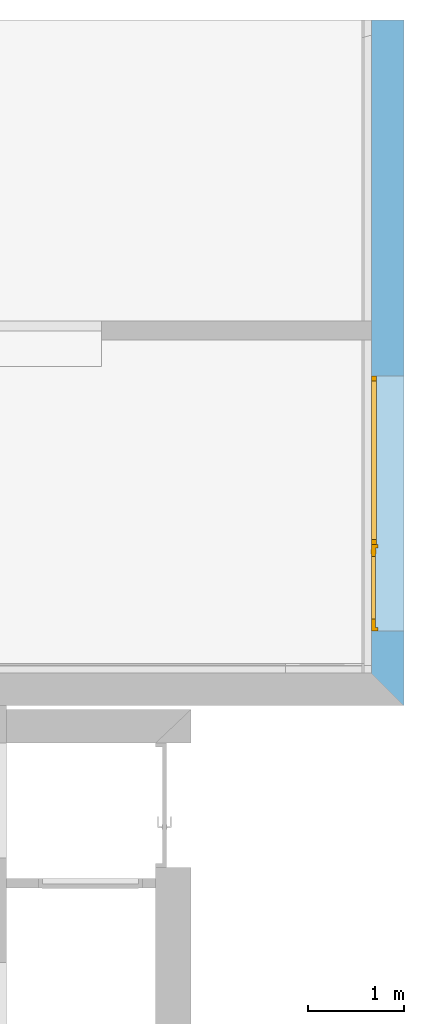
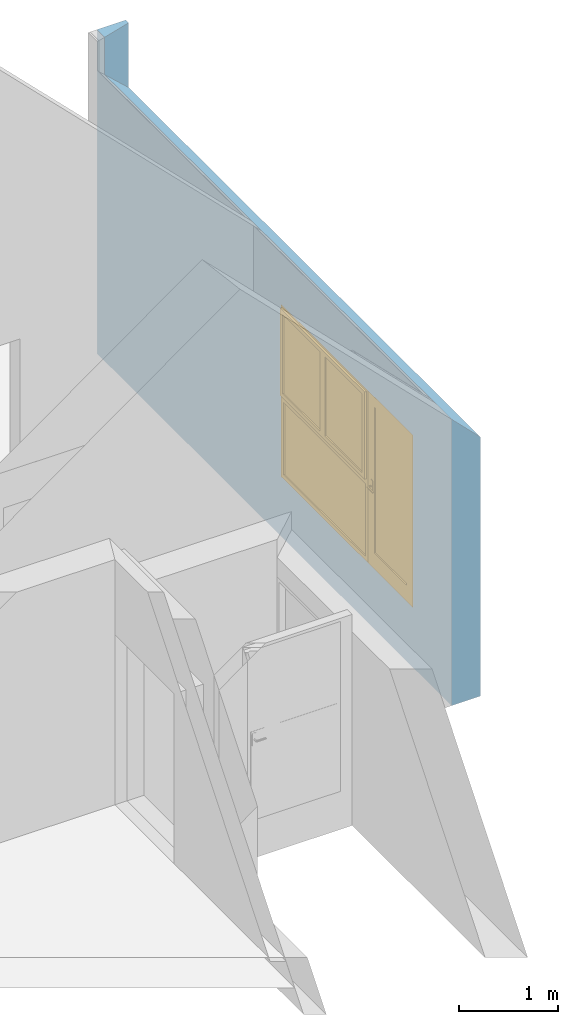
# One storey, part 26 of 34: 1 door, 1 window, 2 openings, plus 1 element that does not belong to this part.
"""IFC2X3 building model written with IfcOpenShell, lengths in metres."""

from ifc_helpers import new_model, entity, si_unit, converted_unit, derived_unit, money_unit, direction, frame, origin_with_axes, origin_2d_with_axis, place, context, subcontext, project, spatial, polyline, rectangle, outline, extrude, boolean, open_shell, faceted_brep, surface_model, material, type_object, element, fill, save


model = new_model("IFC2X3")

# Units and contexts
model_context = context("Model", 3, precision=1e-05, world=origin_with_axes(), true_north=direction((0.0, 1.0)))
body_context = subcontext(model_context, "Body", "Model", "MODEL_VIEW")
ifc_project = project(units=[si_unit("LENGTHUNIT", "METRE"), si_unit("AREAUNIT", "SQUARE_METRE"), si_unit("VOLUMEUNIT", "CUBIC_METRE"), converted_unit("PLANEANGLEUNIT", "DEGREE", entity("IfcPlaneAngleMeasure", 0.0174532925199), si_unit("PLANEANGLEUNIT", "RADIAN"), dimensions=[0, 0, 0, 0, 0, 0, 0]), money_unit("CHF"), converted_unit("TIMEUNIT", "Year", entity("IfcTimeMeasure", 31556926.0), si_unit("TIMEUNIT", "SECOND"), dimensions=[0, 0, 1, 0, 0, 0, 0]), si_unit("MASSUNIT", "GRAM", prefix="KILO"), si_unit("THERMODYNAMICTEMPERATUREUNIT", "DEGREE_CELSIUS"), si_unit("LUMINOUSINTENSITYUNIT", "LUMEN"), si_unit("ENERGYUNIT", "JOULE", prefix="MEGA"), derived_unit("THERMALCONDUCTANCEUNIT", [(si_unit("POWERUNIT", "WATT"), 1), (si_unit("LENGTHUNIT", "METRE"), -1), (si_unit("THERMODYNAMICTEMPERATUREUNIT", "KELVIN"), -1)]), derived_unit("SPECIFICHEATCAPACITYUNIT", [(si_unit("ENERGYUNIT", "JOULE"), 1), (si_unit("MASSUNIT", "GRAM", prefix="KILO"), -1), (si_unit("THERMODYNAMICTEMPERATUREUNIT", "KELVIN"), -1)]), derived_unit("MASSDENSITYUNIT", [(si_unit("MASSUNIT", "GRAM", prefix="KILO"), 1), (si_unit("VOLUMEUNIT", "CUBIC_METRE"), -1)])], contexts=[model_context])

# Site, building, storey
site_placement = place(None, origin_with_axes())
site = spatial("IfcSite", under=ifc_project, at=site_placement, Name="Site", CompositionType="ELEMENT")
building_placement = place(site_placement, origin_with_axes())
building = spatial("IfcBuilding", under=site, at=building_placement, Name="Bâtiment", CompositionType="ELEMENT")
storey_placement = place(building_placement, origin_with_axes())
storey = spatial("IfcBuildingStorey", under=building, at=storey_placement, Name="RDC", CompositionType="ELEMENT", Elevation=-5.32907e-15)

# Wall, openings, window, door
ifc_material = material(Name="Diagonales 1167258944")
wall_type = type_object("IfcWallType", Name="Diagonales 1167258944 340", PredefinedType="NOTDEFINED")
wall_placement = place(storey_placement, frame((1699.91729001, 190.26004191, 0.0), z_axis=(0.0, 0.0, 1.0), x_axis=(0.0, 1.0, 0.0)))
wall = element("IfcWall", 1, at=wall_placement, inside=storey, type_object=wall_type, material=ifc_material, Name="Mur-005", context=body_context, shape_type="CSG", body=[
    boolean("DIFFERENCE", extrude(outline(polyline([(0.0, 0.0), (7.18, 0.0), (7.18, 0.34), (0.0, 0.34), (0.0, 0.0)])), origin_with_axes(), (0.0, 0.0, 1.0), 4.0), faceted_brep([(0.0, 0.0, 3.19999996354), (7.12164777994, 0.0, 3.19999996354), (7.12164777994, 0.0, 4.0), (0.0, 0.0, 4.0), (0.0, 0.34, 3.53999996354), (7.02244903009, 0.34, 3.53999996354), (7.02244903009, 0.34, 4.0), (0.0, 0.34, 4.0)], [[[0, 1, 2, 3]], [[1, 0, 4, 5]], [[6, 2, 1, 5]], [[2, 6, 7, 3]], [[4, 0, 3, 7]], [[5, 4, 7, 6]]])),
])
opening_1_placement = place(wall_placement, frame((2.57, 0.0, 0.74), z_axis=(0.0, 0.0, 1.0), x_axis=(1.0, 0.0, 0.0)))
opening_1 = element("IfcOpeningElement", 2, at=opening_1_placement, cuts=wall, Name="Fen-009", context=body_context, shape_type="SweptSolid", body=[
    extrude(rectangle(XDim=1.76, YDim=2.13, at=origin_2d_with_axis()), frame((0.0, -0.34, 1.065), z_axis=(0.0, -1.0, 0.0), x_axis=(-1.0, 0.0, 0.0)), (0.0, 0.0, -1.0), 1.02),
])
opening_2_placement = place(wall_placement, frame((1.235, 0.0, 0.74), z_axis=(0.0, 0.0, 1.0), x_axis=(1.0, 0.0, 0.0)))
opening_2 = element("IfcOpeningElement", 3, at=opening_2_placement, cuts=wall, Name="Por-005", context=body_context, shape_type="SweptSolid", body=[
    extrude(rectangle(XDim=0.91, YDim=2.13, at=origin_2d_with_axis()), frame((0.0, -0.34, 1.065), z_axis=(0.0, -1.0, 0.0), x_axis=(-1.0, 0.0, 0.0)), (0.0, 0.0, -1.0), 1.02),
])
window_style = type_object("IfcWindowStyle", Name="Fenêtre châssis double variable 25", ConstructionType="NOTDEFINED", OperationType="TRIPLE_PANEL_BOTTOM", ParameterTakesPrecedence=False, Sizeable=False)
window_placement = place(opening_1_placement, frame((-0.88, 0.0, 0.0), z_axis=(0.0, 0.0, 1.0), x_axis=(1.0, 0.0, 0.0)))
window = element("IfcWindow", 4, at=window_placement, inside=storey, type_object=window_style, Name="Fen-009", OverallHeight=2.13, OverallWidth=1.76, context=body_context, shape_type="SurfaceModel", body=[
    faceted_brep([(1.735, 0.34, 2.08), (1.735, 0.315, 2.08), (1.71, 0.315, 2.08), (1.71, 0.29, 2.08), (1.76, 0.29, 2.08), (1.76, 0.34, 2.08), (1.735, 0.34, 1.025), (1.735, 0.315, 1.025), (1.71, 0.315, 1.05), (1.71, 0.315, 1.025), (1.71, 0.29, 1.05), (1.71, 0.29, 0.95), (1.71, 0.29, 0.05), (1.76, 0.29, 0.05), (1.76, 0.34, 0.05), (1.71, 0.34, 0.05), (1.71, 0.34, 0.95), (1.71, 0.34, 1.025)], [[[0, 1, 2, 3, 4, 5]], [[1, 0, 6, 7]], [[8, 2, 1, 7, 9]], [[2, 8, 10, 3]], [[10, 11, 12, 13, 4, 3]], [[5, 4, 13, 14]], [[6, 0, 5, 14, 15, 16, 17]], [[6, 17, 9, 7]], [[9, 17, 16, 11, 10, 8]], [[15, 12, 11, 16]], [[14, 13, 12, 15]]]),
    faceted_brep([(0.05, 0.315, 2.08), (0.025, 0.315, 2.08), (0.025, 0.34, 2.08), (0.0, 0.34, 2.08), (0.0, 0.29, 2.08), (0.05, 0.29, 2.08), (0.05, 0.315, 1.05), (0.05, 0.315, 1.025), (0.025, 0.315, 1.025), (0.025, 0.34, 1.025), (0.05, 0.34, 1.025), (0.05, 0.34, 0.95), (0.05, 0.34, 0.05), (0.0, 0.34, 0.05), (0.0, 0.29, 0.05), (0.05, 0.29, 0.05), (0.05, 0.29, 0.95), (0.05, 0.29, 1.05)], [[[0, 1, 2, 3, 4, 5]], [[1, 0, 6, 7, 8]], [[9, 2, 1, 8]], [[9, 10, 11, 12, 13, 3, 2]], [[13, 14, 4, 3]], [[14, 15, 16, 17, 5, 4]], [[6, 0, 5, 17]], [[7, 6, 17, 16, 11, 10]], [[10, 9, 8, 7]], [[11, 16, 15, 12]], [[12, 15, 14, 13]]]),
    faceted_brep([(1.71, 0.315, 1.05), (0.05, 0.315, 1.05), (0.05, 0.29, 1.05), (1.71, 0.29, 1.05), (0.05, 0.315, 1.025), (1.71, 0.315, 1.025), (0.05, 0.34, 1.025), (0.05, 0.34, 0.95), (0.05, 0.29, 0.95), (1.71, 0.29, 0.95), (1.71, 0.34, 0.95), (1.71, 0.34, 1.025)], [[[0, 1, 2, 3]], [[4, 1, 0, 5]], [[4, 6, 7, 8, 2, 1]], [[8, 9, 3, 2]], [[5, 0, 3, 9, 10, 11]], [[11, 6, 4, 5]], [[6, 11, 10, 7]], [[10, 9, 8, 7]]]),
    faceted_brep([(1.735, 0.34, 2.08), (1.735, 0.34, 2.105), (0.025, 0.34, 2.105), (0.025, 0.34, 2.08), (0.0, 0.34, 2.08), (0.0, 0.34, 2.13), (1.76, 0.34, 2.13), (1.76, 0.34, 2.08), (1.735, 0.315, 2.08), (1.735, 0.315, 2.105), (0.025, 0.315, 2.105), (0.025, 0.315, 2.08), (0.05, 0.315, 2.08), (0.05, 0.29, 2.08), (0.0, 0.29, 2.08), (0.0, 0.29, 2.13), (1.76, 0.29, 2.13), (1.76, 0.29, 2.08), (1.71, 0.29, 2.08), (1.71, 0.315, 2.08)], [[[0, 1, 2, 3, 4, 5, 6, 7]], [[1, 0, 8, 9]], [[2, 1, 9, 10]], [[3, 2, 10, 11]], [[11, 12, 13, 14, 4, 3]], [[4, 14, 15, 5]], [[5, 15, 16, 6]], [[6, 16, 17, 7]], [[8, 0, 7, 17, 18, 19]], [[12, 11, 10, 9, 8, 19]], [[12, 19, 18, 13]], [[14, 13, 18, 17, 16, 15]]]),
    faceted_brep([(1.71, 0.29, 0.05), (1.76, 0.29, 0.05), (1.76, 0.34, 0.05), (1.71, 0.34, 0.05), (0.05, 0.29, 0.05), (0.0, 0.29, 0.05), (0.0, 0.29, 0.0), (1.76, 0.29, 0.0), (1.76, 0.34, 0.0), (0.0, 0.34, 0.0), (0.0, 0.34, 0.05), (0.05, 0.34, 0.05)], [[[0, 1, 2, 3]], [[0, 4, 5, 6, 7, 1]], [[1, 7, 8, 2]], [[3, 2, 8, 9, 10, 11]], [[4, 0, 3, 11]], [[5, 4, 11, 10]], [[6, 5, 10, 9]], [[7, 6, 9, 8]]]),
    faceted_brep([(1.685, 0.315, 2.055), (1.735, 0.315, 2.055), (1.735, 0.365, 2.055), (1.685, 0.365, 2.055), (1.685, 0.315, 1.075), (1.735, 0.315, 1.075), (1.735, 0.365, 1.075), (1.685, 0.365, 1.075)], [[[0, 1, 2, 3]], [[0, 4, 5, 1]], [[1, 5, 6, 2]], [[3, 2, 6, 7]], [[4, 0, 3, 7]], [[5, 4, 7, 6]]]),
    faceted_brep([(0.93, 0.315, 1.075), (0.88, 0.315, 1.075), (0.88, 0.365, 1.075), (0.93, 0.365, 1.075), (0.93, 0.315, 2.055), (0.88, 0.315, 2.055), (0.88, 0.365, 2.055), (0.93, 0.365, 2.055)], [[[0, 1, 2, 3]], [[0, 4, 5, 1]], [[1, 5, 6, 2]], [[3, 2, 6, 7]], [[4, 0, 3, 7]], [[5, 4, 7, 6]]]),
    faceted_brep([(0.88, 0.315, 1.025), (0.88, 0.315, 1.075), (0.88, 0.365, 1.075), (0.88, 0.365, 1.025), (1.735, 0.315, 1.025), (1.735, 0.315, 1.075), (1.685, 0.315, 1.075), (0.93, 0.315, 1.075), (0.93, 0.365, 1.075), (1.685, 0.365, 1.075), (1.735, 0.365, 1.075), (1.735, 0.365, 1.025)], [[[0, 1, 2, 3]], [[0, 4, 5, 6, 7, 1]], [[1, 7, 8, 2]], [[3, 2, 8, 9, 10, 11]], [[4, 0, 3, 11]], [[5, 4, 11, 10]], [[6, 5, 10, 9]], [[7, 6, 9, 8]]]),
    faceted_brep([(1.735, 0.315, 2.105), (1.735, 0.315, 2.055), (1.735, 0.365, 2.055), (1.735, 0.365, 2.105), (0.88, 0.315, 2.105), (0.88, 0.315, 2.055), (0.93, 0.315, 2.055), (1.685, 0.315, 2.055), (1.685, 0.365, 2.055), (0.93, 0.365, 2.055), (0.88, 0.365, 2.055), (0.88, 0.365, 2.105)], [[[0, 1, 2, 3]], [[0, 4, 5, 6, 7, 1]], [[1, 7, 8, 2]], [[3, 2, 8, 9, 10, 11]], [[4, 0, 3, 11]], [[5, 4, 11, 10]], [[6, 5, 10, 9]], [[7, 6, 9, 8]]]),
    surface_model("IfcShellBasedSurfaceModel", [(1.685, 0.33, 1.075), (1.685, 0.33, 2.055), (0.93, 0.33, 2.055), (0.93, 0.33, 1.075)], [open_shell([[[0, 1, 2, 3]]])]),
    surface_model("IfcShellBasedSurfaceModel", [(1.685, 0.35, 1.075), (0.93, 0.35, 1.075), (0.93, 0.35, 2.055), (1.685, 0.35, 2.055)], [open_shell([[[0, 1, 2, 3]]])]),
    faceted_brep([(0.83, 0.315, 2.055), (0.88, 0.315, 2.055), (0.88, 0.365, 2.055), (0.83, 0.365, 2.055), (0.83, 0.315, 1.075), (0.88, 0.315, 1.075), (0.88, 0.365, 1.075), (0.83, 0.365, 1.075)], [[[0, 1, 2, 3]], [[0, 4, 5, 1]], [[1, 5, 6, 2]], [[3, 2, 6, 7]], [[4, 0, 3, 7]], [[5, 4, 7, 6]]]),
    faceted_brep([(0.075, 0.315, 1.075), (0.025, 0.315, 1.075), (0.025, 0.365, 1.075), (0.075, 0.365, 1.075), (0.075, 0.315, 2.055), (0.025, 0.315, 2.055), (0.025, 0.365, 2.055), (0.075, 0.365, 2.055)], [[[0, 1, 2, 3]], [[0, 4, 5, 1]], [[1, 5, 6, 2]], [[3, 2, 6, 7]], [[4, 0, 3, 7]], [[5, 4, 7, 6]]]),
    faceted_brep([(0.025, 0.315, 1.025), (0.025, 0.315, 1.075), (0.025, 0.365, 1.075), (0.025, 0.365, 1.025), (0.88, 0.315, 1.025), (0.88, 0.315, 1.075), (0.83, 0.315, 1.075), (0.075, 0.315, 1.075), (0.075, 0.365, 1.075), (0.83, 0.365, 1.075), (0.88, 0.365, 1.075), (0.88, 0.365, 1.025)], [[[0, 1, 2, 3]], [[0, 4, 5, 6, 7, 1]], [[1, 7, 8, 2]], [[3, 2, 8, 9, 10, 11]], [[4, 0, 3, 11]], [[5, 4, 11, 10]], [[6, 5, 10, 9]], [[7, 6, 9, 8]]]),
    faceted_brep([(0.88, 0.315, 2.105), (0.88, 0.315, 2.055), (0.88, 0.365, 2.055), (0.88, 0.365, 2.105), (0.025, 0.315, 2.105), (0.025, 0.315, 2.055), (0.075, 0.315, 2.055), (0.83, 0.315, 2.055), (0.83, 0.365, 2.055), (0.075, 0.365, 2.055), (0.025, 0.365, 2.055), (0.025, 0.365, 2.105)], [[[0, 1, 2, 3]], [[0, 4, 5, 6, 7, 1]], [[1, 7, 8, 2]], [[3, 2, 8, 9, 10, 11]], [[4, 0, 3, 11]], [[5, 4, 11, 10]], [[6, 5, 10, 9]], [[7, 6, 9, 8]]]),
    surface_model("IfcShellBasedSurfaceModel", [(0.83, 0.33, 1.075), (0.83, 0.33, 2.055), (0.075, 0.33, 2.055), (0.075, 0.33, 1.075)], [open_shell([[[0, 1, 2, 3]]])]),
    surface_model("IfcShellBasedSurfaceModel", [(0.83, 0.35, 1.075), (0.075, 0.35, 1.075), (0.075, 0.35, 2.055), (0.83, 0.35, 2.055)], [open_shell([[[0, 1, 2, 3]]])]),
    surface_model("IfcShellBasedSurfaceModel", [(1.71, 0.305, 0.05), (1.71, 0.305, 0.95), (0.05, 0.305, 0.95), (0.05, 0.305, 0.05)], [open_shell([[[0, 1, 2, 3]]])]),
    surface_model("IfcShellBasedSurfaceModel", [(1.71, 0.325, 0.05), (0.05, 0.325, 0.05), (0.05, 0.325, 0.95), (1.71, 0.325, 0.95)], [open_shell([[[0, 1, 2, 3]]])]),
])
fill(opening_1, window)
door_style = type_object("IfcDoorStyle", Name="Porte 25", ConstructionType="NOTDEFINED", OperationType="SINGLE_SWING_LEFT", ParameterTakesPrecedence=False, Sizeable=False)
door_placement = place(opening_2_placement, frame((-0.455, 0.0, 0.0), z_axis=(0.0, 0.0, 1.0), x_axis=(1.0, 0.0, 0.0)))
door = element("IfcDoor", 5, at=door_placement, inside=storey, type_object=door_style, Name="Por-005", OverallHeight=2.13, OverallWidth=0.91, context=body_context, shape_type="SurfaceModel", body=[
    faceted_brep([(0.87, 0.3, 0.0), (0.87, 0.27, 0.0), (0.87, 0.27, 2.09), (0.87, 0.3, 2.09), (0.882, 0.3, 0.0), (0.882, 0.34, 0.0), (0.91, 0.34, 0.0), (0.91, 0.27, 0.0), (0.91, 0.27, 2.09), (0.882, 0.3, 2.09), (0.91, 0.34, 2.09), (0.882, 0.34, 2.09)], [[[0, 1, 2, 3]], [[4, 5, 6, 7, 1, 0]], [[1, 7, 8, 2]], [[9, 3, 2, 8, 10, 11]], [[9, 4, 0, 3]], [[11, 5, 4, 9]], [[11, 10, 6, 5]], [[6, 10, 8, 7]]]),
    faceted_brep([(0.028, 0.3, 2.09), (0.028, 0.34, 2.09), (0.0, 0.34, 2.09), (0.0, 0.27, 2.09), (0.04, 0.27, 2.09), (0.04, 0.3, 2.09), (0.028, 0.3, 0.0), (0.028, 0.34, 0.0), (0.0, 0.34, 0.0), (0.0, 0.27, 0.0), (0.04, 0.27, 0.0), (0.04, 0.3, 0.0)], [[[0, 1, 2, 3, 4, 5]], [[0, 6, 7, 1]], [[7, 8, 2, 1]], [[2, 8, 9, 3]], [[3, 9, 10, 4]], [[5, 4, 10, 11]], [[5, 11, 6, 0]], [[6, 11, 10, 9, 8, 7]]]),
    faceted_brep([(0.882, 0.34, 2.102), (0.028, 0.34, 2.102), (0.028, 0.34, 2.09), (0.0, 0.34, 2.09), (0.0, 0.34, 2.13), (0.91, 0.34, 2.13), (0.91, 0.34, 2.09), (0.882, 0.34, 2.09), (0.882, 0.3, 2.102), (0.028, 0.3, 2.102), (0.028, 0.3, 2.09), (0.04, 0.3, 2.09), (0.04, 0.27, 2.09), (0.0, 0.27, 2.09), (0.0, 0.27, 2.13), (0.91, 0.27, 2.13), (0.91, 0.27, 2.09), (0.882, 0.3, 2.09), (0.87, 0.27, 2.09), (0.87, 0.3, 2.09)], [[[0, 1, 2, 3, 4, 5, 6, 7]], [[0, 8, 9, 1]], [[1, 9, 10, 2]], [[10, 11, 12, 13, 3, 2]], [[4, 3, 13, 14]], [[5, 4, 14, 15]], [[6, 5, 15, 16]], [[17, 7, 6, 16, 18, 19]], [[7, 17, 8, 0]], [[10, 9, 8, 17, 19, 11]], [[19, 18, 12, 11]], [[12, 18, 16, 15, 14, 13]]]),
    faceted_brep([(0.857, 0.3, 0.93), (0.857, 0.295, 0.93), (0.855096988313, 0.295, 0.920432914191), (0.855096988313, 0.3, 0.920432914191), (0.857, 0.3, 1.055), (0.857, 0.295, 1.055), (0.855096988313, 0.295, 1.06456708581), (0.84967766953, 0.295, 1.07267766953), (0.841567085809, 0.295, 1.07809698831), (0.832, 0.295, 1.08), (0.822432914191, 0.295, 1.07809698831), (0.81432233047, 0.295, 1.07267766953), (0.808903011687, 0.295, 1.06456708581), (0.807, 0.295, 1.055), (0.807, 0.295, 0.93), (0.808903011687, 0.295, 0.920432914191), (0.81432233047, 0.295, 0.91232233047), (0.822432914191, 0.295, 0.906903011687), (0.832, 0.295, 0.905), (0.841567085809, 0.295, 0.906903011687), (0.84967766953, 0.295, 0.91232233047), (0.84967766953, 0.3, 0.91232233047), (0.841567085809, 0.3, 0.906903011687), (0.832, 0.3, 0.905), (0.822432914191, 0.3, 0.906903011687), (0.81432233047, 0.3, 0.91232233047), (0.808903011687, 0.3, 0.920432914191), (0.807, 0.3, 0.93), (0.807, 0.3, 1.055), (0.808903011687, 0.3, 1.06456708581), (0.81432233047, 0.3, 1.07267766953), (0.822432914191, 0.3, 1.07809698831), (0.832, 0.3, 1.08), (0.841567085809, 0.3, 1.07809698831), (0.84967766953, 0.3, 1.07267766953), (0.855096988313, 0.3, 1.06456708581)], [[[0, 1, 2, 3]], [[4, 5, 1, 0]], [[1, 5, 6, 7, 8, 9, 10, 11, 12, 13, 14, 15, 16, 17, 18, 19, 20, 2]], [[3, 2, 20, 21]], [[0, 3, 21, 22, 23, 24, 25, 26, 27, 28, 29, 30, 31, 32, 33, 34, 35, 4]], [[35, 6, 5, 4]], [[34, 7, 6, 35]], [[33, 8, 7, 34]], [[32, 9, 8, 33]], [[31, 10, 9, 32]], [[30, 11, 10, 31]], [[29, 12, 11, 30]], [[28, 13, 12, 29]], [[27, 14, 13, 28]], [[26, 15, 14, 27]], [[25, 16, 15, 26]], [[24, 17, 16, 25]], [[23, 18, 17, 24]], [[22, 19, 18, 23]], [[21, 20, 19, 22]]]),
    faceted_brep([(0.8245, 0.295, 1.005), (0.8245, 0.295, 0.995), (0.8245, 0.265, 0.995), (0.8245, 0.265, 1.005), (0.8395, 0.295, 1.005), (0.8395, 0.295, 0.995), (0.8395, 0.258, 0.995), (0.838510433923, 0.253025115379, 0.995), (0.835692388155, 0.248807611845, 0.995), (0.831474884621, 0.245989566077, 0.995), (0.8265, 0.245, 0.995), (0.7195, 0.245, 0.995), (0.7195, 0.247, 0.995), (0.720489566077, 0.251974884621, 0.995), (0.723307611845, 0.256192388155, 0.995), (0.727525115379, 0.259010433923, 0.995), (0.7325, 0.26, 0.995), (0.8195, 0.26, 0.995), (0.821413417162, 0.260380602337, 0.995), (0.823035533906, 0.261464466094, 0.995), (0.824119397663, 0.263086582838, 0.995), (0.824119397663, 0.263086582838, 1.005), (0.823035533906, 0.261464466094, 1.005), (0.821413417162, 0.260380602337, 1.005), (0.8195, 0.26, 1.005), (0.7325, 0.26, 1.005), (0.727525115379, 0.259010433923, 1.005), (0.723307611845, 0.256192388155, 1.005), (0.720489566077, 0.251974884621, 1.005), (0.7195, 0.247, 1.005), (0.7195, 0.245, 1.005), (0.8265, 0.245, 1.005), (0.831474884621, 0.245989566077, 1.005), (0.835692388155, 0.248807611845, 1.005), (0.838510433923, 0.253025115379, 1.005), (0.8395, 0.258, 1.005)], [[[0, 1, 2, 3]], [[4, 5, 1, 0]], [[1, 5, 6, 7, 8, 9, 10, 11, 12, 13, 14, 15, 16, 17, 18, 19, 20, 2]], [[3, 2, 20, 21]], [[0, 3, 21, 22, 23, 24, 25, 26, 27, 28, 29, 30, 31, 32, 33, 34, 35, 4]], [[35, 6, 5, 4]], [[34, 7, 6, 35]], [[33, 8, 7, 34]], [[32, 9, 8, 33]], [[31, 10, 9, 32]], [[30, 11, 10, 31]], [[29, 12, 11, 30]], [[28, 13, 12, 29]], [[27, 14, 13, 28]], [[26, 15, 14, 27]], [[25, 16, 15, 26]], [[24, 17, 16, 25]], [[23, 18, 17, 24]], [[22, 19, 18, 23]], [[21, 20, 19, 22]]]),
    faceted_brep([(0.857, 0.34, 0.93), (0.855096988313, 0.34, 0.920432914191), (0.855096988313, 0.345, 0.920432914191), (0.857, 0.345, 0.93), (0.857, 0.34, 1.055), (0.855096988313, 0.34, 1.06456708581), (0.84967766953, 0.34, 1.07267766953), (0.841567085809, 0.34, 1.07809698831), (0.832, 0.34, 1.08), (0.822432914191, 0.34, 1.07809698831), (0.81432233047, 0.34, 1.07267766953), (0.808903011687, 0.34, 1.06456708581), (0.807, 0.34, 1.055), (0.807, 0.34, 0.93), (0.808903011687, 0.34, 0.920432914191), (0.81432233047, 0.34, 0.91232233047), (0.822432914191, 0.34, 0.906903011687), (0.832, 0.34, 0.905), (0.841567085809, 0.34, 0.906903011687), (0.84967766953, 0.34, 0.91232233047), (0.84967766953, 0.345, 0.91232233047), (0.841567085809, 0.345, 0.906903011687), (0.832, 0.345, 0.905), (0.822432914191, 0.345, 0.906903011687), (0.81432233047, 0.345, 0.91232233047), (0.808903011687, 0.345, 0.920432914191), (0.807, 0.345, 0.93), (0.807, 0.345, 1.055), (0.808903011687, 0.345, 1.06456708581), (0.81432233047, 0.345, 1.07267766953), (0.822432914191, 0.345, 1.07809698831), (0.832, 0.345, 1.08), (0.841567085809, 0.345, 1.07809698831), (0.84967766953, 0.345, 1.07267766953), (0.855096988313, 0.345, 1.06456708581), (0.857, 0.345, 1.055)], [[[0, 1, 2, 3]], [[0, 4, 5, 6, 7, 8, 9, 10, 11, 12, 13, 14, 15, 16, 17, 18, 19, 1]], [[1, 19, 20, 2]], [[3, 2, 20, 21, 22, 23, 24, 25, 26, 27, 28, 29, 30, 31, 32, 33, 34, 35]], [[4, 0, 3, 35]], [[5, 4, 35, 34]], [[6, 5, 34, 33]], [[7, 6, 33, 32]], [[8, 7, 32, 31]], [[9, 8, 31, 30]], [[10, 9, 30, 29]], [[11, 10, 29, 28]], [[12, 11, 28, 27]], [[13, 12, 27, 26]], [[14, 13, 26, 25]], [[15, 14, 25, 24]], [[16, 15, 24, 23]], [[17, 16, 23, 22]], [[18, 17, 22, 21]], [[19, 18, 21, 20]]]),
    faceted_brep([(0.8245, 0.345, 1.005), (0.8245, 0.375, 1.005), (0.8245, 0.375, 0.995), (0.8245, 0.345, 0.995), (0.8395, 0.345, 1.005), (0.8395, 0.382, 1.005), (0.838510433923, 0.386974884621, 1.005), (0.835692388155, 0.391192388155, 1.005), (0.831474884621, 0.394010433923, 1.005), (0.8265, 0.395, 1.005), (0.7195, 0.395, 1.005), (0.7195, 0.393, 1.005), (0.720489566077, 0.388025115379, 1.005), (0.723307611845, 0.383807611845, 1.005), (0.727525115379, 0.380989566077, 1.005), (0.7325, 0.38, 1.005), (0.8195, 0.38, 1.005), (0.821413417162, 0.379619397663, 1.005), (0.823035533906, 0.378535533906, 1.005), (0.824119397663, 0.376913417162, 1.005), (0.824119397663, 0.376913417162, 0.995), (0.823035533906, 0.378535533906, 0.995), (0.821413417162, 0.379619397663, 0.995), (0.8195, 0.38, 0.995), (0.7325, 0.38, 0.995), (0.727525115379, 0.380989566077, 0.995), (0.723307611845, 0.383807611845, 0.995), (0.720489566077, 0.388025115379, 0.995), (0.7195, 0.393, 0.995), (0.7195, 0.395, 0.995), (0.8265, 0.395, 0.995), (0.831474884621, 0.394010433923, 0.995), (0.835692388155, 0.391192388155, 0.995), (0.838510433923, 0.386974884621, 0.995), (0.8395, 0.382, 0.995), (0.8395, 0.345, 0.995)], [[[0, 1, 2, 3]], [[0, 4, 5, 6, 7, 8, 9, 10, 11, 12, 13, 14, 15, 16, 17, 18, 19, 1]], [[1, 19, 20, 2]], [[3, 2, 20, 21, 22, 23, 24, 25, 26, 27, 28, 29, 30, 31, 32, 33, 34, 35]], [[4, 0, 3, 35]], [[5, 4, 35, 34]], [[6, 5, 34, 33]], [[7, 6, 33, 32]], [[8, 7, 32, 31]], [[9, 8, 31, 30]], [[10, 9, 30, 29]], [[11, 10, 29, 28]], [[12, 11, 28, 27]], [[13, 12, 27, 26]], [[14, 13, 26, 25]], [[15, 14, 25, 24]], [[16, 15, 24, 23]], [[17, 16, 23, 22]], [[18, 17, 22, 21]], [[19, 18, 21, 20]]]),
    faceted_brep([(0.028, 0.34, 0.2), (0.128, 0.34, 0.2), (0.128, 0.3, 0.2), (0.028, 0.3, 0.2), (0.028, 0.34, 2.002), (0.128, 0.34, 2.002), (0.128, 0.3, 2.002), (0.028, 0.3, 2.002)], [[[0, 1, 2, 3]], [[0, 4, 5, 1]], [[1, 5, 6, 2]], [[3, 2, 6, 7]], [[4, 0, 3, 7]], [[5, 4, 7, 6]]]),
    faceted_brep([(0.882, 0.34, 0.2), (0.882, 0.34, 2.002), (0.882, 0.3, 2.002), (0.882, 0.3, 0.2), (0.782, 0.34, 0.2), (0.782, 0.34, 2.002), (0.782, 0.3, 2.002), (0.782, 0.3, 0.2)], [[[0, 1, 2, 3]], [[0, 4, 5, 1]], [[1, 5, 6, 2]], [[3, 2, 6, 7]], [[4, 0, 3, 7]], [[5, 4, 7, 6]]]),
    faceted_brep([(0.028, 0.34, 0.0), (0.882, 0.34, 0.0), (0.882, 0.3, 0.0), (0.028, 0.3, 0.0), (0.028, 0.34, 0.2), (0.128, 0.34, 0.2), (0.782, 0.34, 0.2), (0.882, 0.34, 0.2), (0.882, 0.3, 0.2), (0.782, 0.3, 0.2), (0.128, 0.3, 0.2), (0.028, 0.3, 0.2)], [[[0, 1, 2, 3]], [[0, 4, 5, 6, 7, 1]], [[1, 7, 8, 2]], [[3, 2, 8, 9, 10, 11]], [[4, 0, 3, 11]], [[5, 4, 11, 10]], [[6, 5, 10, 9]], [[7, 6, 9, 8]]]),
    faceted_brep([(0.028, 0.34, 2.102), (0.028, 0.34, 2.002), (0.028, 0.3, 2.002), (0.028, 0.3, 2.102), (0.882, 0.34, 2.102), (0.882, 0.34, 2.002), (0.782, 0.34, 2.002), (0.128, 0.34, 2.002), (0.128, 0.3, 2.002), (0.782, 0.3, 2.002), (0.882, 0.3, 2.002), (0.882, 0.3, 2.102)], [[[0, 1, 2, 3]], [[0, 4, 5, 6, 7, 1]], [[1, 7, 8, 2]], [[3, 2, 8, 9, 10, 11]], [[4, 0, 3, 11]], [[5, 4, 11, 10]], [[6, 5, 10, 9]], [[7, 6, 9, 8]]]),
    surface_model("IfcShellBasedSurfaceModel", [(0.128, 0.326, 0.2), (0.128, 0.326, 2.002), (0.782, 0.326, 2.002), (0.782, 0.326, 0.2)], [open_shell([[[0, 1, 2, 3]]])]),
    surface_model("IfcShellBasedSurfaceModel", [(0.128, 0.314, 0.2), (0.782, 0.314, 0.2), (0.782, 0.314, 2.002), (0.128, 0.314, 2.002)], [open_shell([[[0, 1, 2, 3]]])]),
])
fill(opening_2, door)

save(model, "model.ifc")
